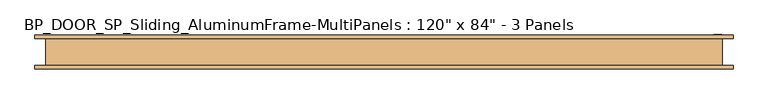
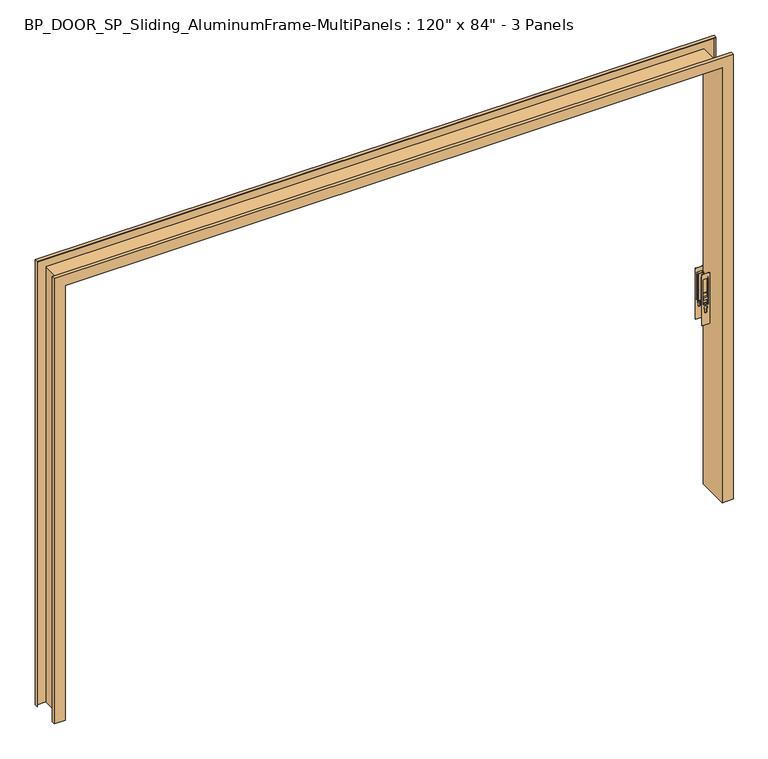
"""IFC4 building model written with IfcOpenShell, lengths in millimetres: door geometry."""

import ifcopenshell
import ifcopenshell.guid

model = None  # the IFC model being written
_history = None  # IfcOwnerHistory: only IFC2X3 demands one
_inside = {}  # id of a spatial element -> (the spatial element, [elements in it])
_under = {}  # id of a project, library or spatial element -> (it, [spatial elements below it])
_declared = {}  # id of a project -> (the project, [libraries it declares])
_typed = {}  # id of a type object -> (the type object, [elements of that type])
_made_of = {}  # id of a material, layer set ... -> (it, [elements and type objects made of it])


def new_model(schema):
    """Start an empty IFC model of exactly this schema.

    Asked for "IFC4X3", IfcOpenShell would pick the latest addendum, in which some entities
    have other attributes; the version numbers below select the first issue.
    IFC2X3 requires an IfcOwnerHistory on every rooted entity: one is made here for all.
    """
    global model, _history
    if schema == "IFC4X3":
        model = ifcopenshell.file(schema_version=(4, 3, 0, 0))
    else:
        model = ifcopenshell.file(schema=schema)
    _inside.clear()
    _under.clear()
    _declared.clear()
    _typed.clear()
    _made_of.clear()
    _history = None
    if model.schema == "IFC2X3":
        org = make("IfcOrganization", Name="unknown")
        user = make(
            "IfcPersonAndOrganization",
            ThePerson=make("IfcPerson", FamilyName="unknown"),
            TheOrganization=org,
        )
        app = make(
            "IfcApplication",
            ApplicationDeveloper=org,
            Version="unknown",
            ApplicationFullName="unknown",
            ApplicationIdentifier="unknown",
        )
        _history = make(
            "IfcOwnerHistory",
            OwningUser=user,
            OwningApplication=app,
            ChangeAction="ADDED",
            CreationDate=0,
        )
    return model


def make(cls, **values):
    """One entity of the class cls with the attributes given. An attribute that is None is left unset."""
    return model.create_entity(
        cls, **{name: value for name, value in values.items() if value is not None}
    )


def rooted(cls, **values):
    """An entity with a GlobalId (a new one), such as an element, a storey or a relation."""
    return make(cls, GlobalId=ifcopenshell.guid.new(), OwnerHistory=_history, **values)


def si_unit(unit_type, name, prefix=None):
    """IfcSIUnit, for example si_unit("LENGTHUNIT", "METRE", prefix="MILLI")."""
    return make("IfcSIUnit", UnitType=unit_type, Prefix=prefix, Name=name)


def assignment(units):
    """IfcUnitAssignment: the units of a project."""
    return None if units is None else make("IfcUnitAssignment", Units=units)


def point(xyz):
    """IfcCartesianPoint."""
    return None if xyz is None else make("IfcCartesianPoint", Coordinates=xyz)


def direction(xyz):
    """IfcDirection."""
    return None if xyz is None else make("IfcDirection", DirectionRatios=xyz)


def frame(location, z_axis=None, x_axis=None):
    """IfcAxis2Placement3D, a coordinate frame: its origin and axes. An axis left out is left unset."""
    return make(
        "IfcAxis2Placement3D",
        Location=point(location),
        Axis=direction(z_axis),
        RefDirection=direction(x_axis),
    )


def frame_2d(location, x_axis=None):
    """IfcAxis2Placement2D, a coordinate frame in the plane: its origin and x axis."""
    return make(
        "IfcAxis2Placement2D", Location=point(location), RefDirection=direction(x_axis)
    )


def origin():
    """The frame at (0, 0, 0) with its axes left unset."""
    return frame((0.0, 0.0, 0.0))


def place(relative_to, where):
    """IfcLocalPlacement: puts the frame where relative to a parent placement (None: the world)."""
    return make(
        "IfcLocalPlacement", PlacementRelTo=relative_to, RelativePlacement=where
    )


def context(
    kind, dimensions, precision=None, world=None, true_north=None, identifier=None
):
    """IfcGeometricRepresentationContext, for example the 3D "Model" context."""
    return make(
        "IfcGeometricRepresentationContext",
        ContextIdentifier=identifier,
        ContextType=kind,
        CoordinateSpaceDimension=dimensions,
        Precision=precision,
        WorldCoordinateSystem=world,
        TrueNorth=true_north,
    )


def project(units=None, contexts=None):
    """IfcProject with its units and contexts."""
    return rooted(
        "IfcProject",
        Name="project",
        RepresentationContexts=contexts,
        UnitsInContext=assignment(units),
    )


def spatial(cls, under=None, at=None, **own):
    """A site, building, storey or space (cls), placed at a placement, below another one or the project."""
    s = rooted(cls, ObjectPlacement=at, **own)
    if under is not None:
        _under.setdefault(under.id(), (under, []))[1].append(s)
    return s


def polyline(points):
    """IfcPolyline through the points."""
    return make("IfcPolyline", Points=[point(p) for p in points])


def circle_curve(where, radius):
    """IfcCircle in the frame where."""
    return make("IfcCircle", Position=where, Radius=radius)


def trimmed(basis, trim1, trim2, sense, master):
    """IfcTrimmedCurve: the piece of a basis curve between two trims."""
    return make(
        "IfcTrimmedCurve",
        BasisCurve=basis,
        Trim1=trim1,
        Trim2=trim2,
        SenseAgreement=sense,
        MasterRepresentation=master,
    )


def segment(curve, same_sense, transition):
    """IfcCompositeCurveSegment."""
    return make(
        "IfcCompositeCurveSegment",
        Transition=transition,
        SameSense=same_sense,
        ParentCurve=curve,
    )


def composite_curve(segments, self_intersect=None):
    """IfcCompositeCurve: segments joined end to end."""
    return make("IfcCompositeCurve", Segments=segments, SelfIntersect=self_intersect)


def outline(outer, holes=None, kind="AREA"):
    """IfcArbitraryClosedProfileDef: a profile drawn as a closed curve; with holes, ...WithVoids."""
    if holes is None:
        return make("IfcArbitraryClosedProfileDef", ProfileType=kind, OuterCurve=outer)
    return make(
        "IfcArbitraryProfileDefWithVoids",
        ProfileType=kind,
        OuterCurve=outer,
        InnerCurves=holes,
    )


def extrude(swept, where, along, depth):
    """IfcExtrudedAreaSolid: the profile swept, set in the frame where, extruded along a direction by depth."""
    return make(
        "IfcExtrudedAreaSolid",
        SweptArea=swept,
        Position=where,
        ExtrudedDirection=direction(along),
        Depth=depth,
    )


def faces_of(points, faces, orient=None, outer=None):
    """IfcFace entities. A face is a list of loops; a loop is a list of indices into points, from 0.

    orient and outer hold one flag for each loop. By default every Orientation is true, the
    first loop of a face is its IfcFaceOuterBound and the others are IfcFaceBound.
    """
    made = []
    for i, loops in enumerate(faces):
        bounds = []
        for j, loop in enumerate(loops):
            is_outer = j == 0 if outer is None else outer[i][j]
            bounds.append(
                make(
                    "IfcFaceOuterBound" if is_outer else "IfcFaceBound",
                    Bound=make("IfcPolyLoop", Polygon=[points[k] for k in loop]),
                    Orientation=True if orient is None else orient[i][j],
                )
            )
        made.append(make("IfcFace", Bounds=bounds))
    return made


def faceted_brep(points, faces, orient=None, outer=None, voids=None):
    """IfcFacetedBrep: a solid bounded by flat faces; with voids (closed shells), ...WithVoids."""
    shared = [point(p) for p in points]
    hull = make("IfcClosedShell", CfsFaces=faces_of(shared, faces, orient, outer))
    if voids is None:
        return make("IfcFacetedBrep", Outer=hull)
    return make(
        "IfcFacetedBrepWithVoids",
        Outer=hull,
        Voids=[
            make(cls, CfsFaces=faces_of(shared, fs, o, b)) for cls, fs, o, b in voids
        ],
    )


def shape(context_of_items, identifier, shape_type, items):
    """IfcShapeRepresentation: the items that make up one representation, for example the "Body"."""
    return make(
        "IfcShapeRepresentation",
        ContextOfItems=context_of_items,
        RepresentationIdentifier=identifier,
        RepresentationType=shape_type,
        Items=items,
    )


def source(mapping_origin, context_of_items, identifier, shape_type, items):
    """IfcRepresentationMap: a shape defined once, which mapped items show again and again."""
    return make(
        "IfcRepresentationMap",
        MappingOrigin=mapping_origin,
        MappedRepresentation=shape(context_of_items, identifier, shape_type, items),
    )


def transform(
    local_origin,
    x_axis=None,
    y_axis=None,
    z_axis=None,
    scale=None,
    scale2=None,
    scale3=None,
    uniform=True,
):
    """IfcCartesianTransformationOperator3D, or its non-uniform kind. x_axis, y_axis, z_axis: its Axis1, 2, 3."""
    if uniform:
        return make(
            "IfcCartesianTransformationOperator3D",
            Axis1=direction(x_axis),
            Axis2=direction(y_axis),
            LocalOrigin=point(local_origin),
            Scale=scale,
            Axis3=direction(z_axis),
        )
    return make(
        "IfcCartesianTransformationOperator3DnonUniform",
        Axis1=direction(x_axis),
        Axis2=direction(y_axis),
        LocalOrigin=point(local_origin),
        Scale=scale,
        Axis3=direction(z_axis),
        Scale2=scale2,
        Scale3=scale3,
    )


def mapped(mapping_source, mapping_target):
    """IfcMappedItem: shows the shape of a source again, moved by a transform."""
    return make(
        "IfcMappedItem", MappingSource=mapping_source, MappingTarget=mapping_target
    )


def made_of(thing, what):
    """Note that an element or type object is made of a material, layer set ...; save() writes the relation."""
    if what is not None:
        _made_of.setdefault(what.id(), (what, []))[1].append(thing)
    return thing


def element(
    cls,
    number,
    at=None,
    inside=None,
    cuts=None,
    type_object=None,
    material=None,
    context=None,
    identifier="Body",
    shape_type=None,
    held_by="IfcProductDefinitionShape",
    body=None,
    shapes=None,
    **own,
):
    """One element of the class cls, such as IfcWall. Its Tag is "e" and its number.

    at: its placement. inside: the storey or other place that contains it. cuts: it is an
    opening in that element (IfcRelVoidsElement). A single representation is given by context,
    identifier, shape_type and body (its items); several are given by shapes. held_by: the class
    of the entity that holds the representations. save() writes the other relations.
    """
    e = rooted(cls, Tag="e%d" % number, ObjectPlacement=at, **own)
    if body is not None:
        shapes = [shape(context, identifier, shape_type, body)]
    if shapes is not None:
        e.Representation = make(held_by, Representations=shapes)
    if inside is not None:
        _inside.setdefault(inside.id(), (inside, []))[1].append(e)
    if cuts is not None:
        rooted(
            "IfcRelVoidsElement", RelatingBuildingElement=cuts, RelatedOpeningElement=e
        )
    if type_object is not None:
        _typed.setdefault(type_object.id(), (type_object, []))[1].append(e)
    return made_of(e, material)


def aggregate(whole, parts):
    """IfcRelAggregates: a whole, such as a stair, and the parts it consists of."""
    return rooted("IfcRelAggregates", RelatingObject=whole, RelatedObjects=parts)


def save(model, path):
    """Write the relations noted so far, then the file.

    IfcRelAggregates (storeys below a building ...), IfcRelContainedInSpatialStructure (elements
    in a storey), IfcRelDefinesByType, IfcRelAssociatesMaterial and IfcRelDeclares: one each for
    every whole, place, type object, material and project.
    """
    for whole, parts in _under.values():
        aggregate(whole, parts)
    for where, things in _inside.values():
        rooted(
            "IfcRelContainedInSpatialStructure",
            RelatedElements=things,
            RelatingStructure=where,
        )
    for kind, things in _typed.values():
        rooted("IfcRelDefinesByType", RelatedObjects=things, RelatingType=kind)
    for what, things in _made_of.values():
        rooted("IfcRelAssociatesMaterial", RelatedObjects=things, RelatingMaterial=what)
    for by, libraries in _declared.values():
        rooted("IfcRelDeclares", RelatingContext=by, RelatedDefinitions=libraries)
    model.write(path)


def door_7ad24d90(model_context):
    return source(origin(), model_context, "Body", "SolidModel", [
        extrude(outline(composite_curve([segment(trimmed(circle_curve(frame_2d((1045.1118918, 1496.4)), 3.0), [point((1048.1118918, 1496.4))], [point((1045.1118918, 1493.4))], False, "CARTESIAN"), True, "CONTINUOUS"), segment(polyline([(1045.1118918, 1493.4), (919.0, 1493.4)]), True, "CONTINUOUS"), segment(trimmed(circle_curve(frame_2d((919.0, 1496.4)), 3.0), [point((919.0, 1493.4))], [point((916.0, 1496.4))], False, "CARTESIAN"), True, "CONTINUOUS"), segment(polyline([(916.0, 1496.4), (916.0, 1515.4)]), True, "CONTINUOUS"), segment(trimmed(circle_curve(frame_2d((919.0, 1515.4)), 3.0), [point((916.0, 1515.4))], [point((919.0, 1518.4))], False, "CARTESIAN"), True, "CONTINUOUS"), segment(polyline([(919.0, 1518.4), (1045.1118918, 1518.4)]), True, "CONTINUOUS"), segment(trimmed(circle_curve(frame_2d((1045.1118918, 1515.4)), 3.0), [point((1045.1118918, 1518.4))], [point((1048.1118918, 1515.4))], False, "CARTESIAN"), True, "CONTINUOUS"), segment(polyline([(1048.1118918, 1515.4), (1048.1118918, 1496.4)]), True, "CONTINUOUS")], self_intersect=False)), frame((0.0, 36.4, 0.0), z_axis=(0.0, 1.0, 0.0), x_axis=(0.0, 0.0, 1.0)), (0.0, 0.0, 1.0), 1.0),
        extrude(outline(composite_curve([segment(trimmed(circle_curve(frame_2d((1046.1118918, 1495.4)), 3.0), [point((1049.1118918, 1495.4))], [point((1046.1118918, 1492.4))], False, "CARTESIAN"), True, "CONTINUOUS"), segment(polyline([(1046.1118918, 1492.4), (918.0, 1492.4)]), True, "CONTINUOUS"), segment(trimmed(circle_curve(frame_2d((918.0, 1495.4)), 3.0), [point((918.0, 1492.4))], [point((915.0, 1495.4))], False, "CARTESIAN"), True, "CONTINUOUS"), segment(polyline([(915.0, 1495.4), (915.0, 1516.4)]), True, "CONTINUOUS"), segment(trimmed(circle_curve(frame_2d((918.0, 1516.4)), 3.0), [point((915.0, 1516.4))], [point((918.0, 1519.4))], False, "CARTESIAN"), True, "CONTINUOUS"), segment(polyline([(918.0, 1519.4), (1046.1118918, 1519.4)]), True, "CONTINUOUS"), segment(trimmed(circle_curve(frame_2d((1046.1118918, 1516.4)), 3.0), [point((1046.1118918, 1519.4))], [point((1049.1118918, 1516.4))], False, "CARTESIAN"), True, "CONTINUOUS"), segment(polyline([(1049.1118918, 1516.4), (1049.1118918, 1495.4)]), True, "CONTINUOUS")], self_intersect=False), holes=[composite_curve([segment(polyline([(1048.1118918, 1496.4), (1048.1118918, 1515.4)]), True, "CONTINUOUS"), segment(trimmed(circle_curve(frame_2d((1045.1118918, 1515.4)), 3.0), [point((1048.1118918, 1515.4))], [point((1045.1118918, 1518.4))], True, "CARTESIAN"), True, "CONTINUOUS"), segment(polyline([(1045.1118918, 1518.4), (919.0, 1518.4)]), True, "CONTINUOUS"), segment(trimmed(circle_curve(frame_2d((919.0, 1515.4)), 3.0), [point((919.0, 1518.4))], [point((916.0, 1515.4))], True, "CARTESIAN"), True, "CONTINUOUS"), segment(polyline([(916.0, 1515.4), (916.0, 1496.4)]), True, "CONTINUOUS"), segment(trimmed(circle_curve(frame_2d((919.0, 1496.4)), 3.0), [point((916.0, 1496.4))], [point((919.0, 1493.4))], True, "CARTESIAN"), True, "CONTINUOUS"), segment(polyline([(919.0, 1493.4), (1045.1118918, 1493.4)]), True, "CONTINUOUS"), segment(trimmed(circle_curve(frame_2d((1045.1118918, 1496.4)), 3.0), [point((1045.1118918, 1493.4))], [point((1048.1118918, 1496.4))], True, "CARTESIAN"), True, "CONTINUOUS")], self_intersect=False)]), frame((0.0, 25.4, 0.0), z_axis=(0.0, 1.0, 0.0), x_axis=(0.0, 0.0, 1.0)), (0.0, 0.0, 1.0), 12.0),
        extrude(outline(polyline([(1495.4, 27.3710938), (1495.4, 34.415625), (1516.4, 34.415625), (1516.4, 27.3710938), (1495.4, 27.3710938)])), frame((0.0, 0.0, 938.1118918), z_axis=(0.0, 0.0, 1.0), x_axis=(1.0, 0.0, 0.0)), (0.0, 0.0, 1.0), 14.0),
        extrude(outline(composite_curve([segment(polyline([(921.1118918, 1498.4), (921.1118918, 1513.4)]), True, "CONTINUOUS"), segment(trimmed(circle_curve(frame_2d((924.1118918, 1513.4)), 3.0), [point((921.1118918, 1513.4))], [point((924.1118918, 1516.4))], False, "CARTESIAN"), True, "CONTINUOUS"), segment(polyline([(924.1118918, 1516.4), (966.1118918, 1516.4)]), True, "CONTINUOUS"), segment(trimmed(circle_curve(frame_2d((966.1118918, 1513.4)), 3.0), [point((966.1118918, 1516.4))], [point((969.1118918, 1513.4))], False, "CARTESIAN"), True, "CONTINUOUS"), segment(polyline([(969.1118918, 1513.4), (969.1118918, 1498.4)]), True, "CONTINUOUS"), segment(trimmed(circle_curve(frame_2d((966.1118918, 1498.4)), 3.0), [point((969.1118918, 1498.4))], [point((966.1118918, 1495.4))], False, "CARTESIAN"), True, "CONTINUOUS"), segment(polyline([(966.1118918, 1495.4), (924.1118918, 1495.4)]), True, "CONTINUOUS"), segment(trimmed(circle_curve(frame_2d((924.1118918, 1498.4)), 3.0), [point((924.1118918, 1495.4))], [point((921.1118918, 1498.4))], False, "CARTESIAN"), True, "CONTINUOUS")], self_intersect=False)), frame((0.0, 34.415625, 0.0), z_axis=(0.0, 1.0, 0.0), x_axis=(0.0, 0.0, 1.0)), (0.0, 0.0, 1.0), 1.984375),
        extrude(outline(composite_curve([segment(trimmed(circle_curve(frame_2d((1067.1118918, 1490.9)), 3.0), [point((1070.1118918, 1490.9))], [point((1067.1118918, 1487.9))], False, "CARTESIAN"), True, "CONTINUOUS"), segment(polyline([(1067.1118918, 1487.9), (823.1118918, 1487.9)]), True, "CONTINUOUS"), segment(trimmed(circle_curve(frame_2d((823.1118918, 1490.9)), 3.0), [point((823.1118918, 1487.9))], [point((820.1118918, 1490.9))], False, "CARTESIAN"), True, "CONTINUOUS"), segment(polyline([(820.1118918, 1490.9), (820.1118918, 1519.9)]), True, "CONTINUOUS"), segment(trimmed(circle_curve(frame_2d((824.1118918, 1519.9)), 4.0), [point((820.1118918, 1519.9))], [point((824.1118918, 1523.9))], False, "CARTESIAN"), True, "CONTINUOUS"), segment(polyline([(824.1118918, 1523.9), (1066.1118918, 1523.9)]), True, "CONTINUOUS"), segment(trimmed(circle_curve(frame_2d((1066.1118918, 1519.9)), 4.0), [point((1066.1118918, 1523.9))], [point((1070.1118918, 1519.9))], False, "CARTESIAN"), True, "CONTINUOUS"), segment(polyline([(1070.1118918, 1519.9), (1070.1118918, 1490.9)]), True, "CONTINUOUS")], self_intersect=False), holes=[composite_curve([segment(polyline([(1044.6118918, 1497.9), (1044.6118918, 1513.9)]), True, "CONTINUOUS"), segment(trimmed(circle_curve(frame_2d((1041.6118918, 1513.9)), 3.0), [point((1044.6118918, 1513.9))], [point((1041.6118918, 1516.9))], True, "CARTESIAN"), True, "CONTINUOUS"), segment(polyline([(1041.6118918, 1516.9), (921.6118918, 1516.9)]), True, "CONTINUOUS"), segment(trimmed(circle_curve(frame_2d((921.6118918, 1513.9)), 3.0), [point((921.6118918, 1516.9))], [point((918.6118918, 1513.9))], True, "CARTESIAN"), True, "CONTINUOUS"), segment(polyline([(918.6118918, 1513.9), (918.6118918, 1497.9)]), True, "CONTINUOUS"), segment(trimmed(circle_curve(frame_2d((921.6118918, 1497.9)), 3.0), [point((918.6118918, 1497.9))], [point((921.6118918, 1494.9))], True, "CARTESIAN"), True, "CONTINUOUS"), segment(polyline([(921.6118918, 1494.9), (1041.6118918, 1494.9)]), True, "CONTINUOUS"), segment(trimmed(circle_curve(frame_2d((1041.6118918, 1497.9)), 3.0), [point((1041.6118918, 1494.9))], [point((1044.6118918, 1497.9))], True, "CARTESIAN"), True, "CONTINUOUS")], self_intersect=False), composite_curve([segment(trimmed(circle_curve(frame_2d((883.4783316, 1505.9)), 4.5144531), [point((883.4783316, 1510.4144531))], [point((883.4783316, 1501.3855469))], True, "CARTESIAN"), True, "CONTINUOUS"), segment(polyline([(883.4783316, 1501.3855469), (897.2004026, 1501.3855469)]), True, "CONTINUOUS"), segment(trimmed(circle_curve(frame_2d((903.7290793, 1505.9)), 7.9375), [point((897.2004026, 1501.3855469))], [point((897.2004026, 1510.4144531))], True, "CARTESIAN"), True, "CONTINUOUS"), segment(polyline([(897.2004026, 1510.4144531), (883.4783316, 1510.4144531)]), True, "CONTINUOUS")], self_intersect=False)]), frame((0.0, 23.4, 0.0), z_axis=(0.0, 1.0, 0.0), x_axis=(0.0, 0.0, 1.0)), (0.0, 0.0, 1.0), 2.0),
        extrude(outline(composite_curve([segment(trimmed(circle_curve(frame_2d((1045.1118918, 1496.4)), 3.0), [point((1048.1118918, 1496.4))], [point((1045.1118918, 1493.4))], False, "CARTESIAN"), True, "CONTINUOUS"), segment(polyline([(1045.1118918, 1493.4), (919.0, 1493.4)]), True, "CONTINUOUS"), segment(trimmed(circle_curve(frame_2d((919.0, 1496.4)), 3.0), [point((919.0, 1493.4))], [point((916.0, 1496.4))], False, "CARTESIAN"), True, "CONTINUOUS"), segment(polyline([(916.0, 1496.4), (916.0, 1515.4)]), True, "CONTINUOUS"), segment(trimmed(circle_curve(frame_2d((919.0, 1515.4)), 3.0), [point((916.0, 1515.4))], [point((919.0, 1518.4))], False, "CARTESIAN"), True, "CONTINUOUS"), segment(polyline([(919.0, 1518.4), (1045.1118918, 1518.4)]), True, "CONTINUOUS"), segment(trimmed(circle_curve(frame_2d((1045.1118918, 1515.4)), 3.0), [point((1045.1118918, 1518.4))], [point((1048.1118918, 1515.4))], False, "CARTESIAN"), True, "CONTINUOUS"), segment(polyline([(1048.1118918, 1515.4), (1048.1118918, 1496.4)]), True, "CONTINUOUS")], self_intersect=False)), frame((0.0, 64.2, 0.0), z_axis=(0.0, 1.0, 0.0), x_axis=(0.0, 0.0, 1.0)), (0.0, 0.0, 1.0), 1.0),
        extrude(outline(composite_curve([segment(trimmed(circle_curve(frame_2d((1046.1118918, 1495.4)), 3.0), [point((1049.1118918, 1495.4))], [point((1046.1118918, 1492.4))], False, "CARTESIAN"), True, "CONTINUOUS"), segment(polyline([(1046.1118918, 1492.4), (918.0, 1492.4)]), True, "CONTINUOUS"), segment(trimmed(circle_curve(frame_2d((918.0, 1495.4)), 3.0), [point((918.0, 1492.4))], [point((915.0, 1495.4))], False, "CARTESIAN"), True, "CONTINUOUS"), segment(polyline([(915.0, 1495.4), (915.0, 1516.4)]), True, "CONTINUOUS"), segment(trimmed(circle_curve(frame_2d((918.0, 1516.4)), 3.0), [point((915.0, 1516.4))], [point((918.0, 1519.4))], False, "CARTESIAN"), True, "CONTINUOUS"), segment(polyline([(918.0, 1519.4), (1046.1118918, 1519.4)]), True, "CONTINUOUS"), segment(trimmed(circle_curve(frame_2d((1046.1118918, 1516.4)), 3.0), [point((1046.1118918, 1519.4))], [point((1049.1118918, 1516.4))], False, "CARTESIAN"), True, "CONTINUOUS"), segment(polyline([(1049.1118918, 1516.4), (1049.1118918, 1495.4)]), True, "CONTINUOUS")], self_intersect=False), holes=[composite_curve([segment(polyline([(1048.1118918, 1496.4), (1048.1118918, 1515.4)]), True, "CONTINUOUS"), segment(trimmed(circle_curve(frame_2d((1045.1118918, 1515.4)), 3.0), [point((1048.1118918, 1515.4))], [point((1045.1118918, 1518.4))], True, "CARTESIAN"), True, "CONTINUOUS"), segment(polyline([(1045.1118918, 1518.4), (919.0, 1518.4)]), True, "CONTINUOUS"), segment(trimmed(circle_curve(frame_2d((919.0, 1515.4)), 3.0), [point((919.0, 1518.4))], [point((916.0, 1515.4))], True, "CARTESIAN"), True, "CONTINUOUS"), segment(polyline([(916.0, 1515.4), (916.0, 1496.4)]), True, "CONTINUOUS"), segment(trimmed(circle_curve(frame_2d((919.0, 1496.4)), 3.0), [point((916.0, 1496.4))], [point((919.0, 1493.4))], True, "CARTESIAN"), True, "CONTINUOUS"), segment(polyline([(919.0, 1493.4), (1045.1118918, 1493.4)]), True, "CONTINUOUS"), segment(trimmed(circle_curve(frame_2d((1045.1118918, 1496.4)), 3.0), [point((1045.1118918, 1493.4))], [point((1048.1118918, 1496.4))], True, "CARTESIAN"), True, "CONTINUOUS")], self_intersect=False)]), frame((0.0, 64.2, 0.0), z_axis=(0.0, 1.0, 0.0), x_axis=(0.0, 0.0, 1.0)), (0.0, 0.0, 1.0), 12.0),
        extrude(outline(polyline([(1495.4, 74.2289063), (1516.4, 74.2289063), (1516.4, 67.184375), (1495.4, 67.184375), (1495.4, 74.2289063)])), frame((0.0, 0.0, 938.1118918), z_axis=(0.0, 0.0, 1.0), x_axis=(1.0, 0.0, 0.0)), (0.0, 0.0, 1.0), 14.0),
        extrude(outline(composite_curve([segment(polyline([(921.1118918, 1498.4), (921.1118918, 1513.4)]), True, "CONTINUOUS"), segment(trimmed(circle_curve(frame_2d((924.1118918, 1513.4)), 3.0), [point((921.1118918, 1513.4))], [point((924.1118918, 1516.4))], False, "CARTESIAN"), True, "CONTINUOUS"), segment(polyline([(924.1118918, 1516.4), (966.1118918, 1516.4)]), True, "CONTINUOUS"), segment(trimmed(circle_curve(frame_2d((966.1118918, 1513.4)), 3.0), [point((966.1118918, 1516.4))], [point((969.1118918, 1513.4))], False, "CARTESIAN"), True, "CONTINUOUS"), segment(polyline([(969.1118918, 1513.4), (969.1118918, 1498.4)]), True, "CONTINUOUS"), segment(trimmed(circle_curve(frame_2d((966.1118918, 1498.4)), 3.0), [point((969.1118918, 1498.4))], [point((966.1118918, 1495.4))], False, "CARTESIAN"), True, "CONTINUOUS"), segment(polyline([(966.1118918, 1495.4), (924.1118918, 1495.4)]), True, "CONTINUOUS"), segment(trimmed(circle_curve(frame_2d((924.1118918, 1498.4)), 3.0), [point((924.1118918, 1495.4))], [point((921.1118918, 1498.4))], False, "CARTESIAN"), True, "CONTINUOUS")], self_intersect=False)), frame((0.0, 65.2, 0.0), z_axis=(0.0, 1.0, 0.0), x_axis=(0.0, 0.0, 1.0)), (0.0, 0.0, 1.0), 1.984375),
        extrude(outline(composite_curve([segment(trimmed(circle_curve(frame_2d((1067.1118918, 1490.9)), 3.0), [point((1070.1118918, 1490.9))], [point((1067.1118918, 1487.9))], False, "CARTESIAN"), True, "CONTINUOUS"), segment(polyline([(1067.1118918, 1487.9), (823.1118918, 1487.9)]), True, "CONTINUOUS"), segment(trimmed(circle_curve(frame_2d((823.1118918, 1490.9)), 3.0), [point((823.1118918, 1487.9))], [point((820.1118918, 1490.9))], False, "CARTESIAN"), True, "CONTINUOUS"), segment(polyline([(820.1118918, 1490.9), (820.1118918, 1519.9)]), True, "CONTINUOUS"), segment(trimmed(circle_curve(frame_2d((824.1118918, 1519.9)), 4.0), [point((820.1118918, 1519.9))], [point((824.1118918, 1523.9))], False, "CARTESIAN"), True, "CONTINUOUS"), segment(polyline([(824.1118918, 1523.9), (1066.1118918, 1523.9)]), True, "CONTINUOUS"), segment(trimmed(circle_curve(frame_2d((1066.1118918, 1519.9)), 4.0), [point((1066.1118918, 1523.9))], [point((1070.1118918, 1519.9))], False, "CARTESIAN"), True, "CONTINUOUS"), segment(polyline([(1070.1118918, 1519.9), (1070.1118918, 1490.9)]), True, "CONTINUOUS")], self_intersect=False), holes=[composite_curve([segment(polyline([(1044.6118918, 1497.9), (1044.6118918, 1513.9)]), True, "CONTINUOUS"), segment(trimmed(circle_curve(frame_2d((1041.6118918, 1513.9)), 3.0), [point((1044.6118918, 1513.9))], [point((1041.6118918, 1516.9))], True, "CARTESIAN"), True, "CONTINUOUS"), segment(polyline([(1041.6118918, 1516.9), (921.6118918, 1516.9)]), True, "CONTINUOUS"), segment(trimmed(circle_curve(frame_2d((921.6118918, 1513.9)), 3.0), [point((921.6118918, 1516.9))], [point((918.6118918, 1513.9))], True, "CARTESIAN"), True, "CONTINUOUS"), segment(polyline([(918.6118918, 1513.9), (918.6118918, 1497.9)]), True, "CONTINUOUS"), segment(trimmed(circle_curve(frame_2d((921.6118918, 1497.9)), 3.0), [point((918.6118918, 1497.9))], [point((921.6118918, 1494.9))], True, "CARTESIAN"), True, "CONTINUOUS"), segment(polyline([(921.6118918, 1494.9), (1041.6118918, 1494.9)]), True, "CONTINUOUS"), segment(trimmed(circle_curve(frame_2d((1041.6118918, 1497.9)), 3.0), [point((1041.6118918, 1494.9))], [point((1044.6118918, 1497.9))], True, "CARTESIAN"), True, "CONTINUOUS")], self_intersect=False), composite_curve([segment(polyline([(897.2004026, 1510.4144531), (883.4783316, 1510.4144531)]), True, "CONTINUOUS"), segment(trimmed(circle_curve(frame_2d((883.4783316, 1505.9)), 4.5144531), [point((883.4783316, 1510.4144531))], [point((883.4783316, 1501.3855469))], True, "CARTESIAN"), True, "CONTINUOUS"), segment(polyline([(883.4783316, 1501.3855469), (897.2004026, 1501.3855469)]), True, "CONTINUOUS"), segment(trimmed(circle_curve(frame_2d((903.7290793, 1505.9)), 7.9375), [point((897.2004026, 1501.3855469))], [point((897.2004026, 1510.4144531))], True, "CARTESIAN"), True, "CONTINUOUS")], self_intersect=False)]), frame((0.0, 76.2, 0.0), z_axis=(0.0, 1.0, 0.0), x_axis=(0.0, 0.0, 1.0)), (0.0, 0.0, 1.0), 2.0),
        faceted_brep([(1574.8, 61.2, 0.0), (1572.8, 61.2, 0.0), (1572.8, 74.2, 0.0), (1526.0, 74.2, 0.0), (1526.0, -74.2, 0.0), (1572.8, -74.2, 0.0), (1572.8, -61.2, 0.0), (1574.8, -61.2, 0.0), (1574.8, -76.2, 0.0), (1524.0, -76.2, 0.0), (1524.0, 76.2, 0.0), (1574.8, 76.2, 0.0), (1574.8, 61.2, 2184.4), (-1574.8, 61.2, 2184.4), (-1574.8, 61.2, 0.0), (-1572.8, 61.2, 0.0), (-1572.8, 61.2, 2182.4), (1572.8, 61.2, 2182.4), (1572.8, 74.2, 2182.4), (-1572.8, 74.2, 2182.4), (-1572.8, 74.2, 0.0), (-1526.0, 74.2, 0.0), (-1526.0, 74.2, 2135.6), (1526.0, 74.2, 2135.6), (1526.0, -74.2, 2135.6), (-1526.0, -74.2, 2135.6), (-1526.0, -74.2, 0.0), (-1572.8, -74.2, 0.0), (-1572.8, -74.2, 2182.4), (1572.8, -74.2, 2182.4), (1572.8, -61.2, 2182.4), (-1572.8, -61.2, 2182.4), (-1572.8, -61.2, 0.0), (-1574.8, -61.2, 0.0), (-1574.8, -61.2, 2184.4), (1574.8, -61.2, 2184.4), (1574.8, -76.2, 2184.4), (-1574.8, -76.2, 2184.4), (-1574.8, -76.2, 0.0), (-1524.0, -76.2, 0.0), (-1524.0, -76.2, 2133.6), (1524.0, -76.2, 2133.6), (1524.0, 76.2, 2133.6), (-1524.0, 76.2, 2133.6), (-1524.0, 76.2, 0.0), (-1574.8, 76.2, 0.0), (-1574.8, 76.2, 2184.4), (1574.8, 76.2, 2184.4)], [[[0, 1, 2, 3, 4, 5, 6, 7, 8, 9, 10, 11]], [[0, 12, 13, 14, 15, 16, 17, 1]], [[1, 17, 18, 2]], [[2, 18, 19, 20, 21, 22, 23, 3]], [[3, 23, 24, 4]], [[4, 24, 25, 26, 27, 28, 29, 5]], [[5, 29, 30, 6]], [[6, 30, 31, 32, 33, 34, 35, 7]], [[7, 35, 36, 8]], [[8, 36, 37, 38, 39, 40, 41, 9]], [[9, 41, 42, 10]], [[10, 42, 43, 44, 45, 46, 47, 11]], [[11, 47, 12, 0]], [[17, 16, 19, 18]], [[23, 22, 25, 24]], [[29, 28, 31, 30]], [[35, 34, 37, 36]], [[41, 40, 43, 42]], [[47, 46, 13, 12]], [[14, 45, 44, 39, 38, 33, 32, 27, 26, 21, 20, 15]], [[16, 15, 20, 19]], [[22, 21, 26, 25]], [[28, 27, 32, 31]], [[34, 33, 38, 37]], [[40, 39, 44, 43]], [[46, 45, 14, 13]]]),
    ])


if __name__ == "__main__":
    model = new_model("IFC4")
    model_context = context("Model", 3, world=origin())
    ifc_project = project(units=[si_unit("LENGTHUNIT", "METRE", prefix="MILLI")], contexts=[model_context])
    site = spatial("IfcSite", under=ifc_project)
    building = spatial("IfcBuilding", under=site)
    placement = place(None, origin())
    door_shape = door_7ad24d90(model_context)
    element("IfcDoor", 1, ObjectType="BP_DOOR_SP_Sliding_AluminumFrame-MultiPanels : 120\" x 84\" - 3 Panels", at=placement, inside=building, context=model_context, shape_type="MappedRepresentation", body=[
        mapped(door_shape, transform((0.0, 0.0, 0.0), x_axis=(1.0, 0.0, 0.0), y_axis=(0.0, 1.0, 0.0), z_axis=(0.0, 0.0, 1.0))),
    ])
    save(model, "model.ifc")
